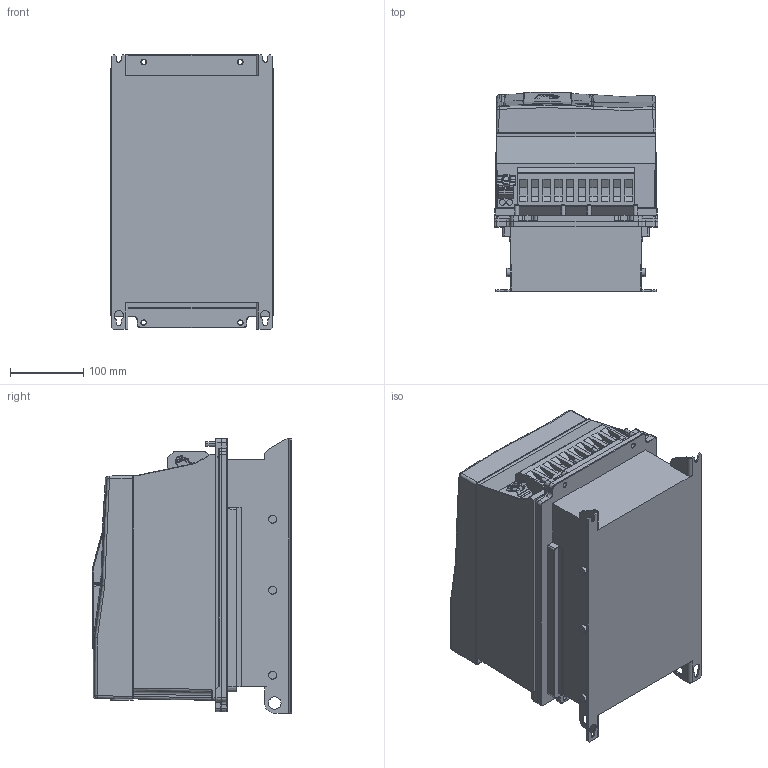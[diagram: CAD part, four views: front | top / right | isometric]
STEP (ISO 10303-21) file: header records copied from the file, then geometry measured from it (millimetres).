
FILE_DESCRIPTION (( 'STEP AP214' ), '1' );
FILE_NAME ('F6-4TR0-P050.STEP', '2020-12-08T11:22:38', ( '' ), ( '' ), 'SwSTEP 2.0', 'SolidWorks 2019', '' );
FILE_SCHEMA (( 'AUTOMOTIVE_DESIGN' ));
Length unit declared in the file: millimetre
Products named in the file (11): F6-4TR0-P050; 10058448_000; 10059762_000_Kundenmodell mit Geberbuchsen; 10061644_000_Deckel (Kundenmodell); 10032600_000_Kundenmodell; 10051076_000_Kundenmodell; 10058468_000; 10059764_000_Blindabdeckung (Kundenmodell); 10061645_000; 10045808_000_Basis Leistungsteil TR0 (Kundenmodell); 10059765_000
Assembly tree (10 placements, depth 4):
  F6-4TR0-P050
    10045808_000_Basis Leistungsteil TR0 (Kundenmodell)
      10058468_000
    10032600_000_Kundenmodell
      10061644_000_Deckel (Kundenmodell)
        10061645_000
      10058448_000
    10051076_000_Kundenmodell
      10059764_000_Blindabdeckung (Kundenmodell)
        10059765_000
      10059762_000_Kundenmodell mit Geberbuchsen
Bounding box: 224 x 272.2 x 375.2 mm (x, y, z)
Volume: 17452837 mm3; surface area: 894037.9 mm2
Topology: 11 solids, 30 shells, 2467 faces, 6400 edges, 4009 vertices
Faces by surface type: plane 1050, cylinder 590, bspline 527, torus 139, cone 121, sphere 40
Entity records: 96304 total; most frequent: CARTESIAN_POINT 39175, ORIENTED_EDGE 12666, DIRECTION 10452, EDGE_CURVE 6333, VERTEX_POINT 4007, LINE 3582, VECTOR 3582, AXIS2_PLACEMENT_3D 3435
